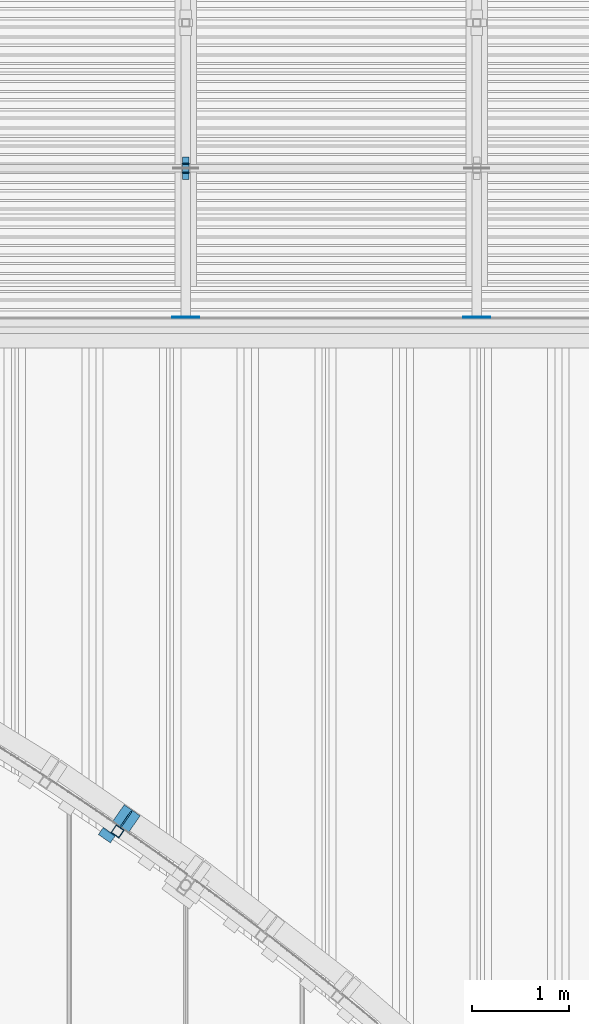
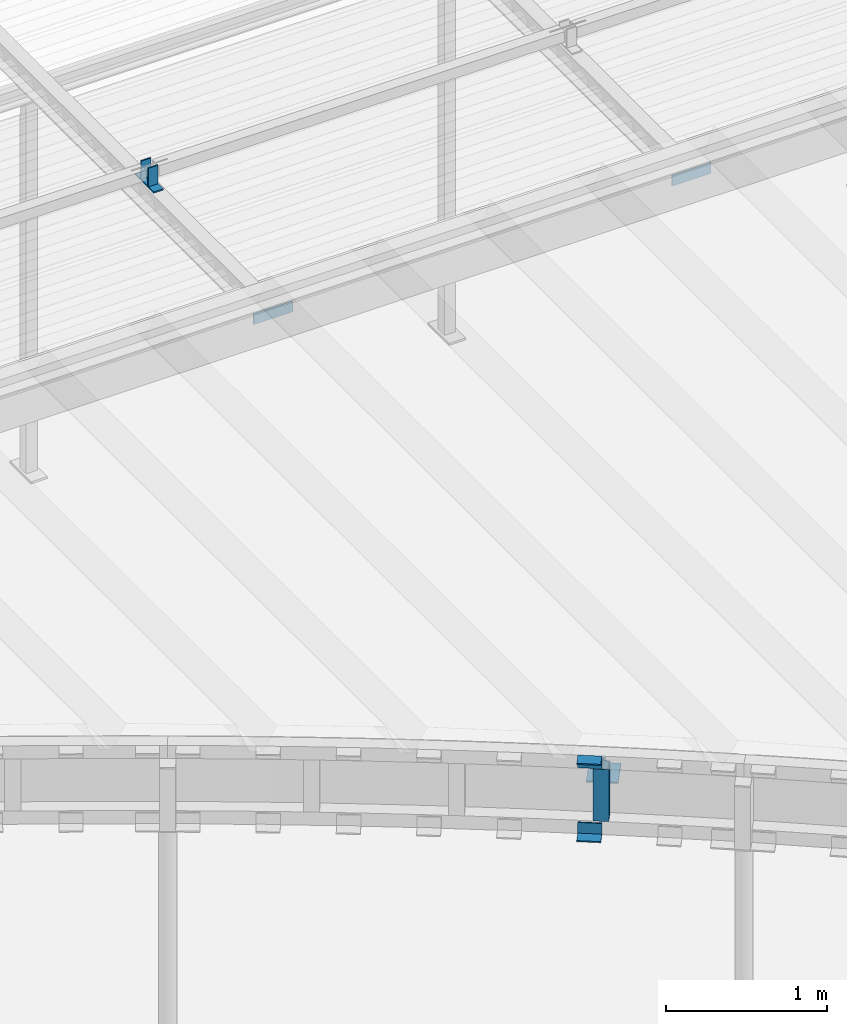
# One storey, part 29 of 98: 10 beams.
"""IFC2X3 building model written with IfcOpenShell, lengths in millimetres."""

import ifcopenshell
import ifcopenshell.guid

model = None  # the IFC model being written
_history = None  # IfcOwnerHistory: only IFC2X3 demands one
_inside = {}  # id of a spatial element -> (the spatial element, [elements in it])
_under = {}  # id of a project, library or spatial element -> (it, [spatial elements below it])
_declared = {}  # id of a project -> (the project, [libraries it declares])
_typed = {}  # id of a type object -> (the type object, [elements of that type])
_made_of = {}  # id of a material, layer set ... -> (it, [elements and type objects made of it])


def new_model(schema):
    """Start an empty IFC model of exactly this schema.

    Asked for "IFC4X3", IfcOpenShell would pick the latest addendum, in which some entities
    have other attributes; the version numbers below select the first issue.
    IFC2X3 requires an IfcOwnerHistory on every rooted entity: one is made here for all.
    """
    global model, _history
    if schema == "IFC4X3":
        model = ifcopenshell.file(schema_version=(4, 3, 0, 0))
    else:
        model = ifcopenshell.file(schema=schema)
    _inside.clear()
    _under.clear()
    _declared.clear()
    _typed.clear()
    _made_of.clear()
    _history = None
    if model.schema == "IFC2X3":
        org = make("IfcOrganization", Name="unknown")
        user = make(
            "IfcPersonAndOrganization",
            ThePerson=make("IfcPerson", FamilyName="unknown"),
            TheOrganization=org,
        )
        app = make(
            "IfcApplication",
            ApplicationDeveloper=org,
            Version="unknown",
            ApplicationFullName="unknown",
            ApplicationIdentifier="unknown",
        )
        _history = make(
            "IfcOwnerHistory",
            OwningUser=user,
            OwningApplication=app,
            ChangeAction="ADDED",
            CreationDate=0,
        )
    return model


def make(cls, **values):
    """One entity of the class cls with the attributes given. An attribute that is None is left unset."""
    return model.create_entity(
        cls, **{name: value for name, value in values.items() if value is not None}
    )


def entity(cls, *values):
    """Any entity or typed value of the class cls, its attributes in the order of the schema. None: left unset."""
    e = model.create_entity(cls)
    for i, value in enumerate(values):
        if value is not None:
            e[i] = value
    return e


def rooted(cls, **values):
    """An entity with a GlobalId (a new one), such as an element, a storey or a relation."""
    return make(cls, GlobalId=ifcopenshell.guid.new(), OwnerHistory=_history, **values)


def si_unit(unit_type, name, prefix=None):
    """IfcSIUnit, for example si_unit("LENGTHUNIT", "METRE", prefix="MILLI")."""
    return make("IfcSIUnit", UnitType=unit_type, Prefix=prefix, Name=name)


def converted_unit(unit_type, name, factor, base, dimensions=None, offset=None):
    """IfcConversionBasedUnit, such as the inch: factor (a typed value) times the base unit."""
    return make(
        "IfcConversionBasedUnit"
        if offset is None
        else "IfcConversionBasedUnitWithOffset",
        ConversionOffset=offset,
        Dimensions=None
        if dimensions is None
        else entity("IfcDimensionalExponents", *dimensions),
        UnitType=unit_type,
        Name=name,
        ConversionFactor=make(
            "IfcMeasureWithUnit", ValueComponent=factor, UnitComponent=base
        ),
    )


def derived_unit(unit_type, elements):
    """IfcDerivedUnit: a product of units, each with its exponent."""
    return make(
        "IfcDerivedUnit",
        Elements=[
            make("IfcDerivedUnitElement", Unit=unit, Exponent=power)
            for unit, power in elements
        ],
        UnitType=unit_type,
    )


def assignment(units):
    """IfcUnitAssignment: the units of a project."""
    return None if units is None else make("IfcUnitAssignment", Units=units)


def point(xyz):
    """IfcCartesianPoint."""
    return None if xyz is None else make("IfcCartesianPoint", Coordinates=xyz)


def direction(xyz):
    """IfcDirection."""
    return None if xyz is None else make("IfcDirection", DirectionRatios=xyz)


def frame(location, z_axis=None, x_axis=None):
    """IfcAxis2Placement3D, a coordinate frame: its origin and axes. An axis left out is left unset."""
    return make(
        "IfcAxis2Placement3D",
        Location=point(location),
        Axis=direction(z_axis),
        RefDirection=direction(x_axis),
    )


def origin_with_axes():
    """The frame at (0, 0, 0) with the z axis (0, 0, 1) and the x axis (1, 0, 0) written out."""
    return frame((0.0, 0.0, 0.0), z_axis=(0.0, 0.0, 1.0), x_axis=(1.0, 0.0, 0.0))


def place(relative_to, where):
    """IfcLocalPlacement: puts the frame where relative to a parent placement (None: the world)."""
    return make(
        "IfcLocalPlacement", PlacementRelTo=relative_to, RelativePlacement=where
    )


def context(
    kind, dimensions, precision=None, world=None, true_north=None, identifier=None
):
    """IfcGeometricRepresentationContext, for example the 3D "Model" context."""
    return make(
        "IfcGeometricRepresentationContext",
        ContextIdentifier=identifier,
        ContextType=kind,
        CoordinateSpaceDimension=dimensions,
        Precision=precision,
        WorldCoordinateSystem=world,
        TrueNorth=true_north,
    )


def subcontext(parent, identifier, kind, view, scale=None):
    """IfcGeometricRepresentationSubContext, for example "Body" below "Model"."""
    return make(
        "IfcGeometricRepresentationSubContext",
        ContextIdentifier=identifier,
        ContextType=kind,
        ParentContext=parent,
        TargetScale=scale,
        TargetView=view,
    )


def project(units=None, contexts=None):
    """IfcProject with its units and contexts."""
    return rooted(
        "IfcProject",
        Name="project",
        RepresentationContexts=contexts,
        UnitsInContext=assignment(units),
    )


def spatial(cls, under=None, at=None, **own):
    """A site, building, storey or space (cls), placed at a placement, below another one or the project."""
    s = rooted(cls, ObjectPlacement=at, **own)
    if under is not None:
        _under.setdefault(under.id(), (under, []))[1].append(s)
    return s


def faces_of(points, faces, orient=None, outer=None):
    """IfcFace entities. A face is a list of loops; a loop is a list of indices into points, from 0.

    orient and outer hold one flag for each loop. By default every Orientation is true, the
    first loop of a face is its IfcFaceOuterBound and the others are IfcFaceBound.
    """
    made = []
    for i, loops in enumerate(faces):
        bounds = []
        for j, loop in enumerate(loops):
            is_outer = j == 0 if outer is None else outer[i][j]
            bounds.append(
                make(
                    "IfcFaceOuterBound" if is_outer else "IfcFaceBound",
                    Bound=make("IfcPolyLoop", Polygon=[points[k] for k in loop]),
                    Orientation=True if orient is None else orient[i][j],
                )
            )
        made.append(make("IfcFace", Bounds=bounds))
    return made


def faceted_brep(points, faces, orient=None, outer=None, voids=None):
    """IfcFacetedBrep: a solid bounded by flat faces; with voids (closed shells), ...WithVoids."""
    shared = [point(p) for p in points]
    hull = make("IfcClosedShell", CfsFaces=faces_of(shared, faces, orient, outer))
    if voids is None:
        return make("IfcFacetedBrep", Outer=hull)
    return make(
        "IfcFacetedBrepWithVoids",
        Outer=hull,
        Voids=[
            make(cls, CfsFaces=faces_of(shared, fs, o, b)) for cls, fs, o, b in voids
        ],
    )


def shape(context_of_items, identifier, shape_type, items):
    """IfcShapeRepresentation: the items that make up one representation, for example the "Body"."""
    return make(
        "IfcShapeRepresentation",
        ContextOfItems=context_of_items,
        RepresentationIdentifier=identifier,
        RepresentationType=shape_type,
        Items=items,
    )


def material(Name=None, Category=None):
    """IfcMaterial."""
    return make("IfcMaterial", Name=Name, Category=Category)


def made_of(thing, what):
    """Note that an element or type object is made of a material, layer set ...; save() writes the relation."""
    if what is not None:
        _made_of.setdefault(what.id(), (what, []))[1].append(thing)
    return thing


def type_object(cls, material=None, **own):
    """A type object (cls), such as IfcWallType, which elements share."""
    return made_of(rooted(cls, **own), material)


def element(
    cls,
    number,
    at=None,
    inside=None,
    cuts=None,
    type_object=None,
    material=None,
    context=None,
    identifier="Body",
    shape_type=None,
    held_by="IfcProductDefinitionShape",
    body=None,
    shapes=None,
    **own,
):
    """One element of the class cls, such as IfcWall. Its Tag is "e" and its number.

    at: its placement. inside: the storey or other place that contains it. cuts: it is an
    opening in that element (IfcRelVoidsElement). A single representation is given by context,
    identifier, shape_type and body (its items); several are given by shapes. held_by: the class
    of the entity that holds the representations. save() writes the other relations.
    """
    e = rooted(cls, Tag="e%d" % number, ObjectPlacement=at, **own)
    if body is not None:
        shapes = [shape(context, identifier, shape_type, body)]
    if shapes is not None:
        e.Representation = make(held_by, Representations=shapes)
    if inside is not None:
        _inside.setdefault(inside.id(), (inside, []))[1].append(e)
    if cuts is not None:
        rooted(
            "IfcRelVoidsElement", RelatingBuildingElement=cuts, RelatedOpeningElement=e
        )
    if type_object is not None:
        _typed.setdefault(type_object.id(), (type_object, []))[1].append(e)
    return made_of(e, material)


def aggregate(whole, parts):
    """IfcRelAggregates: a whole, such as a stair, and the parts it consists of."""
    return rooted("IfcRelAggregates", RelatingObject=whole, RelatedObjects=parts)


def save(model, path):
    """Write the relations noted so far, then the file.

    IfcRelAggregates (storeys below a building ...), IfcRelContainedInSpatialStructure (elements
    in a storey), IfcRelDefinesByType, IfcRelAssociatesMaterial and IfcRelDeclares: one each for
    every whole, place, type object, material and project.
    """
    for whole, parts in _under.values():
        aggregate(whole, parts)
    for where, things in _inside.values():
        rooted(
            "IfcRelContainedInSpatialStructure",
            RelatedElements=things,
            RelatingStructure=where,
        )
    for kind, things in _typed.values():
        rooted("IfcRelDefinesByType", RelatedObjects=things, RelatingType=kind)
    for what, things in _made_of.values():
        rooted("IfcRelAssociatesMaterial", RelatedObjects=things, RelatingMaterial=what)
    for by, libraries in _declared.values():
        rooted("IfcRelDeclares", RelatingContext=by, RelatedDefinitions=libraries)
    model.write(path)


model = new_model("IFC2X3")

# Units and contexts
model_context = context("Model", 3, precision=0.01, world=frame((0.0, 4.29681676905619e-09, 0.0)), true_north=direction((4.01073788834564e-13, 1.0)))
plan_context = context("Plan", 3, precision=0.01, world=frame((0.0, 4.29681676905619e-09, 0.0)), true_north=direction((4.01073788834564e-13, 1.0)))
body_context = subcontext(model_context, "Body", "Model", "MODEL_VIEW")
ifc_project = project(units=[converted_unit("PLANEANGLEUNIT", "DEGREE", entity("IfcPositiveLengthMeasure", 0.0174532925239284), si_unit("PLANEANGLEUNIT", "RADIAN"), dimensions=[0, 0, 0, 0, 0, 0, 0]), si_unit("AREAUNIT", "SQUARE_METRE"), si_unit("LENGTHUNIT", "METRE", prefix="MILLI"), si_unit("MASSUNIT", "GRAM", prefix="KILO"), si_unit("POWERUNIT", "WATT"), si_unit("PRESSUREUNIT", "PASCAL"), si_unit("FORCEUNIT", "NEWTON", prefix="KILO"), si_unit("ELECTRICCURRENTUNIT", "AMPERE"), si_unit("THERMODYNAMICTEMPERATUREUNIT", "DEGREE_CELSIUS"), si_unit("TIMEUNIT", "SECOND"), si_unit("VOLUMEUNIT", "CUBIC_METRE"), derived_unit("LINEARVELOCITYUNIT", [(si_unit("LENGTHUNIT", "METRE"), 1), (si_unit("TIMEUNIT", "SECOND"), -1)]), derived_unit("VOLUMETRICFLOWRATEUNIT", [(si_unit("VOLUMEUNIT", "CUBIC_METRE"), 1), (si_unit("TIMEUNIT", "SECOND"), -1)]), derived_unit("THERMALTRANSMITTANCEUNIT", [(si_unit("POWERUNIT", "WATT"), 1), (si_unit("THERMODYNAMICTEMPERATUREUNIT", "KELVIN"), -1), (si_unit("AREAUNIT", "SQUARE_METRE"), -1)])], contexts=[model_context, plan_context])

# Site, building, storey
site_placement = place(None, frame((0.0, -4.29681676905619e-09, 0.0), z_axis=(0.0, 0.0, 1.0), x_axis=(1.0, 0.0, 0.0)))
site = spatial("IfcSite", under=ifc_project, at=site_placement, Name="Gardermoen", CompositionType="ELEMENT")
building_placement = place(site_placement, frame((0.0, 4.29681676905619e-09, 0.0), z_axis=(0.0, 0.0, 1.0), x_axis=(1.0, 0.0, 0.0)))
building = spatial("IfcBuilding", under=site, at=building_placement, Name="TS", CompositionType="ELEMENT")
storey_placement = place(building_placement, origin_with_axes())
storey = spatial("IfcBuildingStorey", under=building, at=storey_placement, Name="D", CompositionType="ELEMENT", Elevation=0.0)

# Beams
ifc_material = material(Name="STEEL/S355")
beam_type_1 = type_object("IfcBeamType", Name="PL10*70", PredefinedType="NOTDEFINED")
beam_1_placement = place(storey_placement, frame((522999.999847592, 415954.999738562, 207174.999928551), z_axis=(0.999999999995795, 0.0, 2.89999985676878e-06), x_axis=(2.89999985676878e-06, 0.0, -0.999999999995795)))
element("IfcBeam", 1, at=beam_1_placement, inside=storey, type_object=beam_type_1, material=ifc_material, Name="STÅLBJELKE", ObjectType="PL10*70", context=body_context, shape_type="Brep", body=[
    faceted_brep([(-2.3283064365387e-10, 5.0, -35.0), (2.3283064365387e-10, 5.0, 35.0000000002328), (139.999828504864, 5.0, 35.000000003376), (139.999828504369, 5.0, -34.9999999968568), (2.3283064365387e-10, -5.0, 35.0000000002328), (139.999828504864, -5.0, 35.000000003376), (-2.3283064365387e-10, -5.0, -35.0), (139.999828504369, -5.0, -34.9999999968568)], [[[0, 1, 2, 3]], [[1, 4, 5, 2]], [[4, 6, 7, 5]], [[6, 0, 3, 7]], [[5, 7, 3, 2]], [[6, 4, 1, 0]]]),
])
beam_2_placement = place(storey_placement, frame((523000.000074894, 415885.000270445, 207029.999925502), z_axis=(1.0, 0.0, 0.0), x_axis=(0.0, 1.0, 0.0)))
element("IfcBeam", 2, at=beam_2_placement, inside=storey, type_object=beam_type_1, material=ifc_material, Name="STÅLBJELKE", ObjectType="PL10*70", context=body_context, shape_type="Brep", body=[
    faceted_brep([(-2.3283064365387e-10, 5.0, -35.0), (2.3283064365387e-10, 5.0, 35.0000000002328), (229.999307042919, 5.0, 35.0000000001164), (229.999307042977, 5.0, -34.9999999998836), (2.3283064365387e-10, -5.0, 35.0000000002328), (229.999307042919, -5.0, 35.0000000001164), (-2.3283064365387e-10, -5.0, -35.0), (229.999307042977, -5.0, -34.9999999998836)], [[[0, 1, 2, 3]], [[1, 4, 5, 2]], [[4, 6, 7, 5]], [[6, 0, 3, 7]], [[5, 7, 3, 2]], [[6, 4, 1, 0]]]),
])
beam_3_placement = place(storey_placement, frame((522999.999847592, 416044.999738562, 207174.999929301), z_axis=(0.999999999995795, 0.0, 2.89999985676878e-06), x_axis=(2.89999985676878e-06, 0.0, -0.999999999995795)))
element("IfcBeam", 3, at=beam_3_placement, inside=storey, type_object=beam_type_1, material=ifc_material, Name="STÅLBJELKE", ObjectType="PL10*70", context=body_context, shape_type="Brep", body=[
    faceted_brep([(-2.3283064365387e-10, 5.0, -35.0), (2.3283064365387e-10, 5.0, 35.0000000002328), (139.999828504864, 5.0, 35.000000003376), (139.999828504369, 5.0, -34.9999999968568), (2.3283064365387e-10, -5.0, 35.0000000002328), (139.999828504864, -5.0, 35.000000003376), (-2.3283064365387e-10, -5.0, -35.0), (139.999828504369, -5.0, -34.9999999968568)], [[[0, 1, 2, 3]], [[1, 4, 5, 2]], [[4, 6, 7, 5]], [[6, 0, 3, 7]], [[5, 7, 3, 2]], [[6, 4, 1, 0]]]),
])
beam_type_2 = type_object("IfcBeamType", Name="PL10*200", PredefinedType="NOTDEFINED")
beam_4_placement = place(storey_placement, frame((522531.109776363, 409327.896163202, 206828.0), z_axis=(-0.571820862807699, -0.82037851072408, 0.0), x_axis=(-0.82037851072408, 0.571820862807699, 0.0)))
element("IfcBeam", 4, at=beam_4_placement, inside=storey, type_object=beam_type_2, material=ifc_material, Name="STÅLBJELKE", ObjectType="PL10*200", context=body_context, shape_type="Brep", body=[
    faceted_brep([(0.0, -5.0, 0.0), (-0.454028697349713, -5.0, 209.566192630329), (-0.454028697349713, 5.0, 209.566192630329), (0.0, 5.0, 0.0), (199.544097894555, -5.0, 210.432800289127), (199.544097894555, 5.0, 210.432800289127), (200.0, -5.0, 0.0), (200.0, 5.0, -5.82076609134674e-11)], [[[0, 1, 2, 3]], [[1, 4, 5, 2]], [[4, 6, 7, 5]], [[6, 0, 3, 7]], [[5, 7, 3, 2]], [[6, 4, 1, 0]]]),
])
beam_type_3 = type_object("IfcBeamType", Name="L90*9", PredefinedType="NOTDEFINED")
for number, where, z_axis, x_axis in (
    (5, (522250.056115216, 409086.092112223, 207055.0), (0.0, 0.0, -1.0), (-0.823538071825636, 0.567261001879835, 0.0)),
    (6, (522250.056115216, 409086.092112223, 206550.0), (-0.567261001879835, -0.823538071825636, 0.0), (-0.823538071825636, 0.567261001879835, 0.0)),
):
    element("IfcBeam", number, at=place(storey_placement, frame(where, z_axis=z_axis, x_axis=x_axis)), inside=storey, type_object=beam_type_3, material=ifc_material, Name="STÅLBJELKE", ObjectType="L90*9", context=body_context, shape_type="Brep", body=[
        faceted_brep([(3.49245965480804e-10, 45.0, -45.0), (-3.20142135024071e-10, 45.0, 45.0), (150.176599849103, 44.999999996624, 45.0), (150.176599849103, 44.999999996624, -45.0), (6.98491930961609e-10, 36.0, 45.0000000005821), (150.176599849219, 35.999999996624, 45.0), (-4.07453626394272e-10, 36.0, -36.0000000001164), (150.176599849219, 35.999999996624, -36.0), (-5.23868948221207e-10, -45.0, -36.0000000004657), (150.176599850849, -45.0000000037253, -36.0), (3.49245965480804e-10, -45.0, -45.0), (150.176599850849, -45.0000000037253, -45.0)], [[[0, 1, 2, 3]], [[1, 4, 5, 2]], [[4, 6, 7, 5]], [[6, 8, 9, 7]], [[8, 10, 11, 9]], [[10, 0, 3, 11]], [[5, 7, 9, 11, 3, 2]], [[10, 8, 6, 4, 1, 0]]]),
    ])
beam_type_4 = type_object("IfcBeamType", Name="PL10*150", PredefinedType="NOTDEFINED")
beam_5_placement = place(storey_placement, frame((522441.025511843, 409373.500443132, 206983.0), z_axis=(-0.569988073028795, -0.821652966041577, 0.0), x_axis=(0.0, 0.0, -1.0)))
element("IfcBeam", 7, at=beam_5_placement, inside=storey, type_object=beam_type_4, material=ifc_material, Name="STÅLBJELKE", ObjectType="PL10*150", context=body_context, shape_type="Brep", body=[
    faceted_brep([(0.0, -5.0, 150.0), (2.91038304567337e-11, -5.0000000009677, 195.946411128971), (2.91038304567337e-11, 4.99999999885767, 195.946411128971), (0.0, 5.0, 150.0), (150.0, -5.0000000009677, 195.946411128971), (150.0, 4.99999999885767, 195.946411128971), (150.0, -4.99999999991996, 0.0), (150.0, 4.99999999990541, 1.16415321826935e-10), (99.9999999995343, -4.99999999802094, 7.21774995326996e-09), (99.9999999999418, 5.00000000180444, 6.81029632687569e-09)], [[[0, 1, 2, 3]], [[1, 4, 5, 2]], [[4, 6, 7, 5]], [[6, 8, 9, 7]], [[8, 0, 3, 9]], [[5, 7, 9, 3, 2]], [[8, 6, 4, 1, 0]]]),
])
beam_type_5 = type_object("IfcBeamType", Name="RHS100*6.3", PredefinedType="NOTDEFINED")
beam_6_placement = place(storey_placement, frame((522298.409887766, 409168.144396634, 206605.0), z_axis=(0.822144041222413, -0.569279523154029, 0.0), x_axis=(0.0, 0.0, 1.0)))
element("IfcBeam", 8, at=beam_6_placement, inside=storey, type_object=beam_type_5, material=ifc_material, Name="STÅLBJELKE", ObjectType="RHS100*6.3", context=body_context, shape_type="Brep", body=[
    faceted_brep([(0.0, 43.6999998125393, -43.6999998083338), (0.0, -43.6999998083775, -43.6999998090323), (395.0, -43.6999998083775, -43.6999998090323), (395.0, 43.6999998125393, -43.6999998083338), (0.0, -43.6999998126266, 43.699999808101), (395.0, -43.6999998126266, 43.699999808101), (0.0, 43.6999998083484, 43.6999998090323), (395.0, 43.6999998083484, 43.6999998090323), (4.07453626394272e-10, 50.0, -50.0), (-3.49245965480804e-10, 50.0, 50.0), (394.999999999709, 50.0, 50.0), (394.999999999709, 50.0, -50.0), (-3.49245965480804e-10, -50.0, 50.0), (394.999999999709, -50.0, 50.0), (4.07453626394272e-10, -50.0, -50.0), (394.999999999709, -50.0, -50.0)], [[[0, 1, 2, 3]], [[1, 4, 5, 2]], [[4, 6, 7, 5]], [[6, 0, 3, 7]], [[8, 9, 10, 11]], [[9, 12, 13, 10]], [[12, 14, 15, 13]], [[14, 8, 11, 15]], [[13, 15, 11, 10], [5, 7, 3, 2]], [[14, 12, 9, 8], [6, 4, 1, 0]]]),
])
beam_type_6 = type_object("IfcBeamType", Name="PL80*10", PredefinedType="NOTDEFINED")
for number, where, z_axis, x_axis in (
    (9, (523140.000046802, 414463.993025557, 206969.999718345), (0.0, 0.0, -1.0), (-0.999999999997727, -2.13200007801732e-06, 0.0)),
    (10, (526140.000046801, 414463.996925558, 206969.999718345), (0.0, 0.0, -1.0), (-0.999999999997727, -2.13200007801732e-06, 0.0)),
):
    element("IfcBeam", number, at=place(storey_placement, frame(where, z_axis=z_axis, x_axis=x_axis)), inside=storey, type_object=beam_type_6, material=ifc_material, Name="STÅLBJELKE", ObjectType="PL80*10", context=body_context, shape_type="Brep", body=[
        faceted_brep([(0.0, 5.00000000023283, -39.9999999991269), (0.0, 4.99999999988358, 39.9999999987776), (279.9999720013, 4.99999999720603, 40.0), (279.9999720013, 4.99999999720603, -40.0), (0.0, -5.00000000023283, 39.9999999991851), (279.999972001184, -5.00000000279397, 40.0), (0.0, -4.99999999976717, -39.9999999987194), (279.999972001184, -5.00000000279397, -40.0)], [[[0, 1, 2, 3]], [[1, 4, 5, 2]], [[4, 6, 7, 5]], [[6, 0, 3, 7]], [[5, 7, 3, 2]], [[6, 4, 1, 0]]]),
    ])

save(model, "model.ifc")
